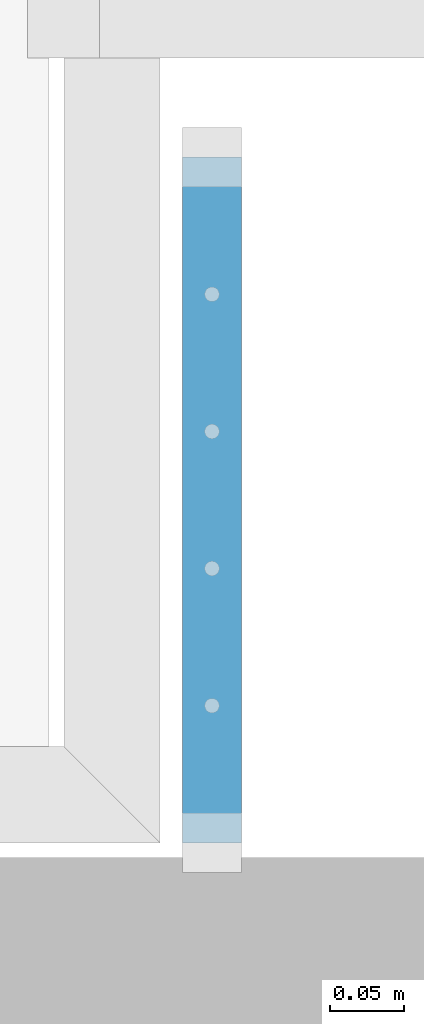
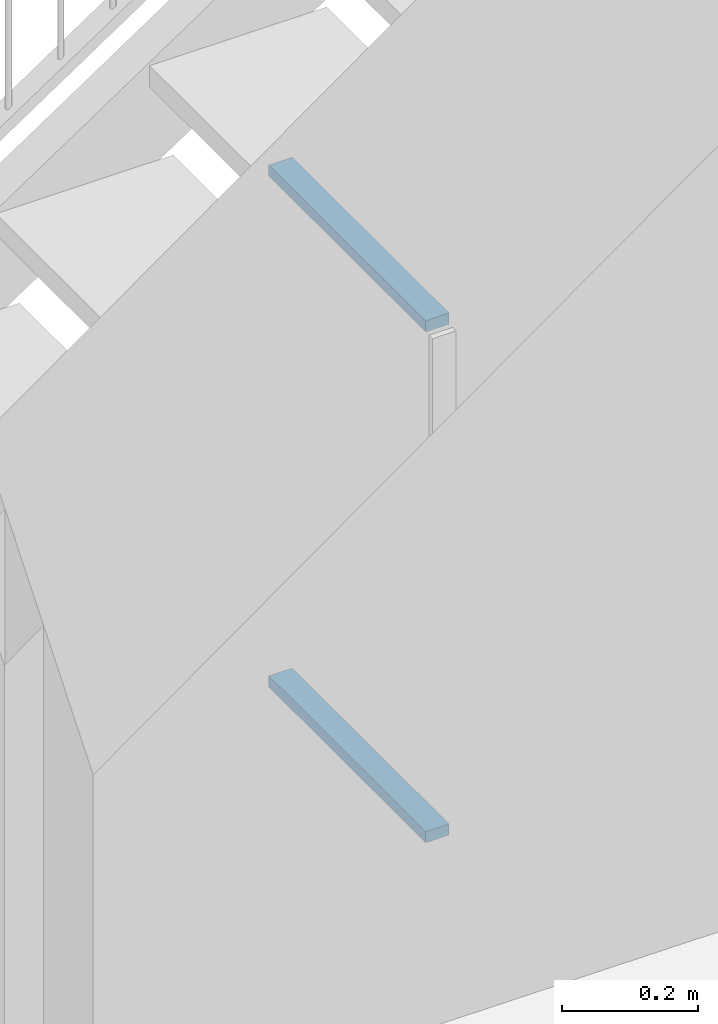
# One storey, part 30 of 117: 2 members, 1 element without a shape of its own.
"""IFC2X3 building model written with IfcOpenShell, lengths in millimetres."""

from ifc_helpers import new_model, entity, si_unit, converted_unit, derived_unit, money_unit, direction, frame, origin_with_axes, place, context, subcontext, project, spatial, faceted_brep, material, type_object, element, aggregate, save


model = new_model("IFC2X3")

# Units and contexts
model_context = context("Model", 3, precision=0.01, world=origin_with_axes(), true_north=direction((0.0, 1.0)))
body_context = subcontext(model_context, "Body", "Model", "MODEL_VIEW")
ifc_project = project(units=[si_unit("LENGTHUNIT", "METRE", prefix="MILLI"), si_unit("AREAUNIT", "SQUARE_METRE"), si_unit("VOLUMEUNIT", "CUBIC_METRE"), converted_unit("PLANEANGLEUNIT", "DEGREE", entity("IfcPlaneAngleMeasure", 0.0174532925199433), si_unit("PLANEANGLEUNIT", "RADIAN"), dimensions=[0, 0, 0, 0, 0, 0, 0]), money_unit("EUR"), converted_unit("TIMEUNIT", "Year", entity("IfcTimeMeasure", 31557600.0), si_unit("TIMEUNIT", "SECOND"), dimensions=[0, 0, 1, 0, 0, 0, 0]), si_unit("MASSUNIT", "GRAM", prefix="KILO"), si_unit("THERMODYNAMICTEMPERATUREUNIT", "DEGREE_CELSIUS"), si_unit("LUMINOUSINTENSITYUNIT", "LUMEN"), si_unit("ENERGYUNIT", "JOULE", prefix="MEGA"), derived_unit("THERMALCONDUCTANCEUNIT", [(si_unit("POWERUNIT", "WATT"), 1), (si_unit("LENGTHUNIT", "METRE"), -1), (si_unit("THERMODYNAMICTEMPERATUREUNIT", "KELVIN"), -1)]), derived_unit("SPECIFICHEATCAPACITYUNIT", [(si_unit("ENERGYUNIT", "JOULE"), 1), (si_unit("MASSUNIT", "GRAM", prefix="KILO"), -1), (si_unit("THERMODYNAMICTEMPERATUREUNIT", "KELVIN"), -1)]), derived_unit("MASSDENSITYUNIT", [(si_unit("MASSUNIT", "GRAM", prefix="KILO"), 1), (si_unit("VOLUMEUNIT", "CUBIC_METRE"), -1)])], contexts=[model_context])

# Site, building, storey
site_placement = place(None, origin_with_axes())
site = spatial("IfcSite", under=ifc_project, at=site_placement, Name="Site", CompositionType="ELEMENT")
building_placement = place(site_placement, origin_with_axes())
building = spatial("IfcBuilding", under=site, at=building_placement, Name="Naam gebouw", CompositionType="ELEMENT")
storey_placement = place(building_placement, frame((0.0, 0.0, 4150.0), z_axis=(0.0, 0.0, 1.0), x_axis=(1.0, 0.0, 0.0)))
storey = spatial("IfcBuildingStorey", under=building, at=storey_placement, Name="1e verdieping N", CompositionType="ELEMENT", Elevation=4150.0)

# Railing, members
railing_type = type_object("IfcRailingType", Name="Railing Type", PredefinedType="NOTDEFINED")
railing_placement = place(storey_placement, frame((56209.65277777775, 21185.9124251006, 0.0), z_axis=(0.0, 0.0, 1.0), x_axis=(1.0, 0.0, 0.0)))
railing = element("IfcRailing", 1, at=railing_placement, inside=storey, type_object=railing_type, Name="_Reling-x", PredefinedType="NOTDEFINED")
ifc_material = material(Name="Metaal - Staal C")
member_type = type_object("IfcMemberType", Name="IfcMember", PredefinedType="USERDEFINED")
member_1_placement = place(railing_placement, frame((24.99999999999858, -288.4661313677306, 971.7157287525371), z_axis=(0.0, 0.0, 1.0), x_axis=(1.0, 0.0, 0.0)))
member_1 = element("IfcMember", 2, at=member_1_placement, type_object=member_type, material=ifc_material, Name="_Bovenregel-x", context=body_context, shape_type="Brep", body=[
    faceted_brep([(20.00000000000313, -231.5338686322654, 28.28427124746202), (20.00000000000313, -231.5338686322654, 8.284271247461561), (20.00000000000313, 231.5338686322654, 8.284271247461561), (20.00000000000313, 231.5338686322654, 28.28427124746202), (-20.00000000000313, -231.5338686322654, 28.28427124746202), (-20.00000000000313, -231.5338686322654, 8.284271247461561), (-20.00000000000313, 231.5338686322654, 8.284271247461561), (-20.00000000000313, 231.5338686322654, 28.28427124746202)], [[[0, 1, 2, 3]], [[0, 4, 5, 1]], [[1, 5, 6, 2]], [[3, 2, 6, 7]], [[4, 0, 3, 7]], [[5, 4, 7, 6]]]),
])
member_2_placement = place(railing_placement, frame((24.99999999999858, -288.4661313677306, 47.63932022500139), z_axis=(0.0, 0.0, 1.0), x_axis=(1.0, 0.0, 0.0)))
member_2 = element("IfcMember", 3, at=member_2_placement, type_object=member_type, material=ifc_material, Name="_Regel-x", context=body_context, shape_type="Brep", body=[
    faceted_brep([(20.00000000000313, -231.5338686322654, 32.36067977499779), (20.00000000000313, -231.5338686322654, 12.36067977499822), (20.00000000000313, 231.5338686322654, 12.36067977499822), (20.00000000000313, 231.5338686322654, 32.36067977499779), (-20.00000000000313, -231.5338686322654, 32.36067977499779), (-20.00000000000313, -231.5338686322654, 12.36067977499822), (-20.00000000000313, 231.5338686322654, 12.36067977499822), (-20.00000000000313, 231.5338686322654, 32.36067977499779)], [[[0, 1, 2, 3]], [[0, 4, 5, 1]], [[1, 5, 6, 2]], [[3, 2, 6, 7]], [[4, 0, 3, 7]], [[5, 4, 7, 6]]]),
])
aggregate(railing, [member_1, member_2])

save(model, "model.ifc")
